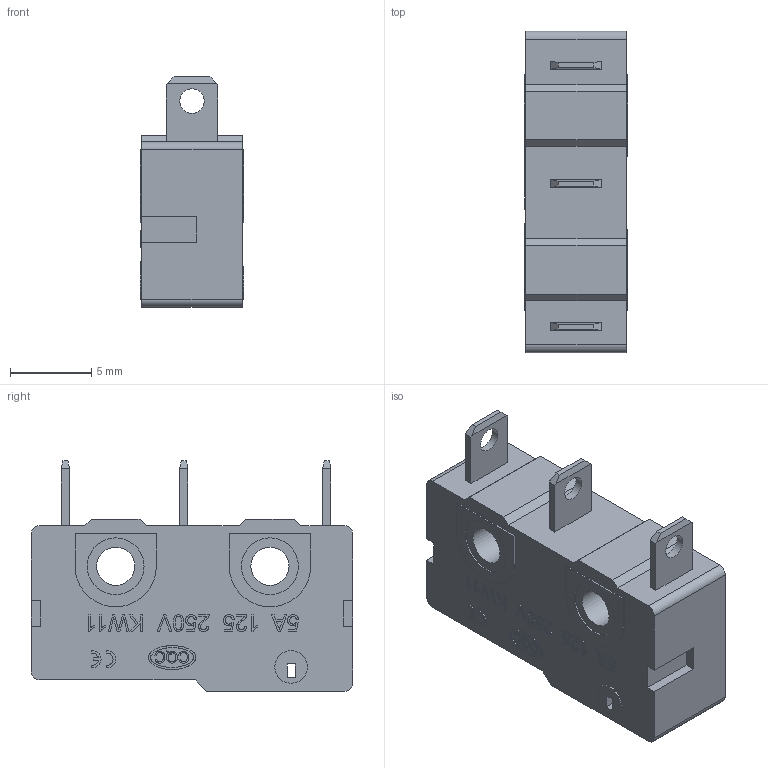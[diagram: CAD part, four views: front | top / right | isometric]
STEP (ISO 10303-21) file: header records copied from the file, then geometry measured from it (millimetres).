
FILE_DESCRIPTION(/* description */ ('STEP AP242 Edition 2','CAx-IF Rec.Pracs.---Representation and Presentation of Product Manufacturing Information (PMI)---4.0---2014-10-13','CAx-IF Rec.Pracs.---3D Tessellated Geometry---0.4---2014-09-14','2;1','CAx-IF Rec.Pracs.---User Defined Attributes---1.5---2016-08-15'),/* implementation_level */ '2;1');
FILE_NAME(/* name */ 'Final Build - limit_switch',/* time_stamp */ '2026-08-31T23:26:10Z',/* author */ (''),/* organization */ (''),/* preprocessor_version */ 'ST-DEVELOPER v20',/* originating_system */ 'ONSHAPE BY PTC INC, 1.220',/* authorisation */ ' ');
FILE_SCHEMA (('AP242_MANAGED_MODEL_BASED_3D_ENGINEERING_MIM_LF { 1 0 10303 442 3 1 4 }'));
Length unit declared in the file: metre
Products named in the file (1): limit_switch
Bounding box: 6.4 x 19.8 x 14.2 mm (x, y, z)
Volume: 1129.4 mm3; surface area: 1032.8 mm2
Topology: 1 solids, 1 shells, 436 faces, 1190 edges, 794 vertices
Faces by surface type: plane 216, cylinder 201, bspline 19
Full cylindrical faces by diameter (mm): 1.5 x3, 2 x2, 2.35 x2, 3.5 x4
Entity records: 14180 total; most frequent: CARTESIAN_POINT 3128, ORIENTED_EDGE 2350, DIRECTION 2242, EDGE_CURVE 1175, AXIS2_PLACEMENT_3D 824, VERTEX_POINT 792, LINE 594, VECTOR 594
